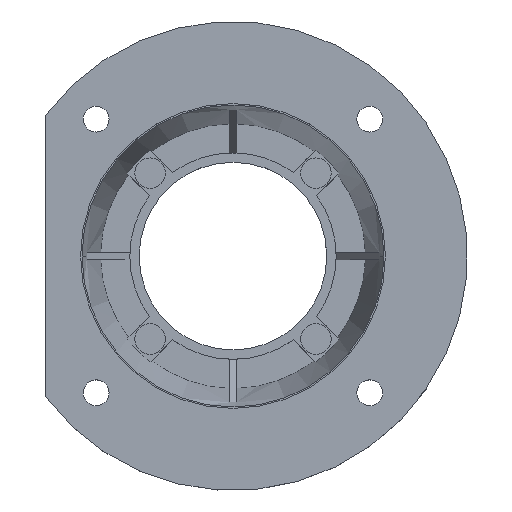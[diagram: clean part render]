
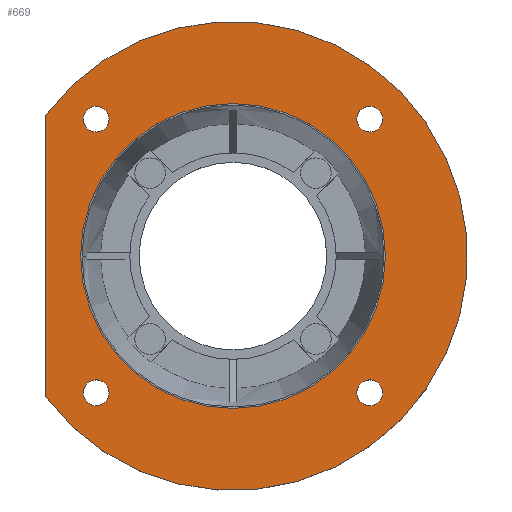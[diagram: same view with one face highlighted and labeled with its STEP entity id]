
A CAD part, top view. The second image highlights one B-rep face of the part: STEP entity #669.
In plain terms, the highlighted planar face has unit normal (0, 0, 1) as drawn and (1, 0, 0) by its records, which use the part's own axes.
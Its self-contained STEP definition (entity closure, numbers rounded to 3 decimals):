
#669=ADVANCED_FACE('',(#766,#752,#753,#754,#755,#756),#2055,.T.);
#752=FACE_BOUND('',#852,.T.);
#753=FACE_BOUND('',#853,.T.);
#754=FACE_BOUND('',#854,.T.);
#755=FACE_BOUND('',#855,.T.);
#756=FACE_BOUND('',#856,.T.);
#766=FACE_OUTER_BOUND('',#851,.T.);
#851=EDGE_LOOP('',(#972,#973));
#852=EDGE_LOOP('',(#974,#975));
#853=EDGE_LOOP('',(#976,#977));
#854=EDGE_LOOP('',(#978,#979));
#855=EDGE_LOOP('',(#980,#981));
#856=EDGE_LOOP('',(#982,#983));
#972=ORIENTED_EDGE('',*,*,#1382,.F.);
#973=ORIENTED_EDGE('',*,*,#1379,.F.);
#974=ORIENTED_EDGE('',*,*,#1568,.F.);
#975=ORIENTED_EDGE('',*,*,#1531,.F.);
#976=ORIENTED_EDGE('',*,*,#1566,.F.);
#977=ORIENTED_EDGE('',*,*,#1527,.F.);
#978=ORIENTED_EDGE('',*,*,#1564,.F.);
#979=ORIENTED_EDGE('',*,*,#1523,.F.);
#980=ORIENTED_EDGE('',*,*,#1562,.F.);
#981=ORIENTED_EDGE('',*,*,#1519,.F.);
#982=ORIENTED_EDGE('',*,*,#1556,.F.);
#983=ORIENTED_EDGE('',*,*,#1447,.F.);
#1379=EDGE_CURVE('',#1901,#1902,#1587,.T.);
#1382=EDGE_CURVE('',#1902,#1901,#1769,.T.);
#1447=EDGE_CURVE('',#1903,#2004,#1616,.T.);
#1519=EDGE_CURVE('',#1907,#2007,#1632,.T.);
#1523=EDGE_CURVE('',#1906,#2008,#1635,.T.);
#1527=EDGE_CURVE('',#1905,#2009,#1638,.T.);
#1531=EDGE_CURVE('',#1904,#2010,#1641,.T.);
#1556=EDGE_CURVE('',#2004,#1903,#1656,.T.);
#1562=EDGE_CURVE('',#2007,#1907,#1660,.T.);
#1564=EDGE_CURVE('',#2008,#1906,#1661,.T.);
#1566=EDGE_CURVE('',#2009,#1905,#1662,.T.);
#1568=EDGE_CURVE('',#2010,#1904,#1663,.T.);
#1587=TRIMMED_CURVE($,#1672,(#3026),(#3027),.T.,.CARTESIAN.);
#1616=TRIMMED_CURVE($,#1701,(#3223),(#3224),.T.,.CARTESIAN.);
#1632=TRIMMED_CURVE($,#1717,(#3426),(#3427),.T.,.CARTESIAN.);
#1635=TRIMMED_CURVE($,#1720,(#3437),(#3438),.T.,.CARTESIAN.);
#1638=TRIMMED_CURVE($,#1723,(#3448),(#3449),.T.,.CARTESIAN.);
#1641=TRIMMED_CURVE($,#1726,(#3459),(#3460),.T.,.CARTESIAN.);
#1656=TRIMMED_CURVE($,#1741,(#3525),(#3526),.T.,.CARTESIAN.);
#1660=TRIMMED_CURVE($,#1745,(#3541),(#3542),.T.,.CARTESIAN.);
#1661=TRIMMED_CURVE($,#1746,(#3546),(#3547),.T.,.CARTESIAN.);
#1662=TRIMMED_CURVE($,#1747,(#3551),(#3552),.T.,.CARTESIAN.);
#1663=TRIMMED_CURVE($,#1748,(#3556),(#3557),.T.,.CARTESIAN.);
#1672=CIRCLE('',#2350,100.);
#1701=CIRCLE('',#2379,65.);
#1717=CIRCLE('',#2395,5.5);
#1720=CIRCLE('',#2398,5.5);
#1723=CIRCLE('',#2401,5.5);
#1726=CIRCLE('',#2404,5.5);
#1741=CIRCLE('',#2419,65.);
#1745=CIRCLE('',#2423,5.5);
#1746=CIRCLE('',#2424,5.5);
#1747=CIRCLE('',#2425,5.5);
#1748=CIRCLE('',#2426,5.5);
#1769=B_SPLINE_CURVE_WITH_KNOTS('',1,(#3033,#3034),.UNSPECIFIED.,.F.,.F.,
(2,2),(-120.,0.),.UNSPECIFIED.);
#1901=VERTEX_POINT('',#2885);
#1902=VERTEX_POINT('',#2886);
#1903=VERTEX_POINT('',#2887);
#1904=VERTEX_POINT('',#2888);
#1905=VERTEX_POINT('',#2889);
#1906=VERTEX_POINT('',#2890);
#1907=VERTEX_POINT('',#2891);
#2004=VERTEX_POINT('',#2988);
#2007=VERTEX_POINT('',#2991);
#2008=VERTEX_POINT('',#2992);
#2009=VERTEX_POINT('',#2993);
#2010=VERTEX_POINT('',#2994);
#2055=PLANE('',#2279);
#2279=AXIS2_PLACEMENT_3D('',#2692,#2443,$);
#2350=AXIS2_PLACEMENT_3D($,#3025,#2514,#2515);
#2379=AXIS2_PLACEMENT_3D($,#3222,#2572,#2573);
#2395=AXIS2_PLACEMENT_3D($,#3425,#2604,#2605);
#2398=AXIS2_PLACEMENT_3D($,#3436,#2610,#2611);
#2401=AXIS2_PLACEMENT_3D($,#3447,#2616,#2617);
#2404=AXIS2_PLACEMENT_3D($,#3458,#2622,#2623);
#2419=AXIS2_PLACEMENT_3D($,#3524,#2652,#2653);
#2423=AXIS2_PLACEMENT_3D($,#3540,#2660,#2661);
#2424=AXIS2_PLACEMENT_3D($,#3545,#2662,#2663);
#2425=AXIS2_PLACEMENT_3D($,#3550,#2664,#2665);
#2426=AXIS2_PLACEMENT_3D($,#3555,#2666,#2667);
#2443=DIRECTION('',(1.,0.,0.));
#2514=DIRECTION('',(-1.,0.,0.));
#2515=DIRECTION('',(0.,0.6,0.8));
#2572=DIRECTION('',(1.,0.,0.));
#2573=DIRECTION('',(0.,0.,-1.));
#2604=DIRECTION('',(1.,0.,0.));
#2605=DIRECTION('',(0.,0.,1.));
#2610=DIRECTION('',(1.,0.,0.));
#2611=DIRECTION('',(0.,0.,1.));
#2616=DIRECTION('',(1.,0.,0.));
#2617=DIRECTION('',(0.,0.,1.));
#2622=DIRECTION('',(1.,0.,0.));
#2623=DIRECTION('',(0.,0.,1.));
#2652=DIRECTION('',(1.,0.,0.));
#2653=DIRECTION('',(0.,0.,1.));
#2660=DIRECTION('',(1.,0.,0.));
#2661=DIRECTION('',(0.,0.,-1.));
#2662=DIRECTION('',(1.,0.,0.));
#2663=DIRECTION('',(0.,0.,-1.));
#2664=DIRECTION('',(1.,0.,0.));
#2665=DIRECTION('',(0.,0.,-1.));
#2666=DIRECTION('',(1.,0.,0.));
#2667=DIRECTION('',(0.,0.,-1.));
#2692=CARTESIAN_POINT('',(45.,-141.253,-118.06));
#2885=CARTESIAN_POINT('',(45.,60.,80.));
#2886=CARTESIAN_POINT('',(45.,-60.,80.));
#2887=CARTESIAN_POINT('',(45.,0.,-65.));
#2888=CARTESIAN_POINT('',(45.,58.336,63.836));
#2889=CARTESIAN_POINT('',(45.,-58.336,63.836));
#2890=CARTESIAN_POINT('',(45.,-58.336,-52.836));
#2891=CARTESIAN_POINT('',(45.,58.336,-52.836));
#2988=CARTESIAN_POINT('',(45.,0.,65.));
#2991=CARTESIAN_POINT('',(45.,58.336,-63.836));
#2992=CARTESIAN_POINT('',(45.,-58.336,-63.836));
#2993=CARTESIAN_POINT('',(45.,-58.336,52.836));
#2994=CARTESIAN_POINT('',(45.,58.336,52.836));
#3025=CARTESIAN_POINT('',(45.,0.,0.));
#3026=CARTESIAN_POINT('',(45.,60.,80.));
#3027=CARTESIAN_POINT('',(45.,-60.,80.));
#3033=CARTESIAN_POINT('',(45.,-60.,80.));
#3034=CARTESIAN_POINT('',(45.,60.,80.));
#3222=CARTESIAN_POINT('',(45.,0.,0.));
#3223=CARTESIAN_POINT('',(45.,0.,-65.));
#3224=CARTESIAN_POINT('',(45.,0.,65.));
#3425=CARTESIAN_POINT('',(45.,58.336,-58.336));
#3426=CARTESIAN_POINT('',(45.,58.336,-52.836));
#3427=CARTESIAN_POINT('',(45.,58.336,-63.836));
#3436=CARTESIAN_POINT('',(45.,-58.336,-58.336));
#3437=CARTESIAN_POINT('',(45.,-58.336,-52.836));
#3438=CARTESIAN_POINT('',(45.,-58.336,-63.836));
#3447=CARTESIAN_POINT('',(45.,-58.336,58.336));
#3448=CARTESIAN_POINT('',(45.,-58.336,63.836));
#3449=CARTESIAN_POINT('',(45.,-58.336,52.836));
#3458=CARTESIAN_POINT('',(45.,58.336,58.336));
#3459=CARTESIAN_POINT('',(45.,58.336,63.836));
#3460=CARTESIAN_POINT('',(45.,58.336,52.836));
#3524=CARTESIAN_POINT('',(45.,0.,0.));
#3525=CARTESIAN_POINT('',(45.,0.,65.));
#3526=CARTESIAN_POINT('',(45.,0.,-65.));
#3540=CARTESIAN_POINT('',(45.,58.336,-58.336));
#3541=CARTESIAN_POINT('',(45.,58.336,-63.836));
#3542=CARTESIAN_POINT('',(45.,58.336,-52.836));
#3545=CARTESIAN_POINT('',(45.,-58.336,-58.336));
#3546=CARTESIAN_POINT('',(45.,-58.336,-63.836));
#3547=CARTESIAN_POINT('',(45.,-58.336,-52.836));
#3550=CARTESIAN_POINT('',(45.,-58.336,58.336));
#3551=CARTESIAN_POINT('',(45.,-58.336,52.836));
#3552=CARTESIAN_POINT('',(45.,-58.336,63.836));
#3555=CARTESIAN_POINT('',(45.,58.336,58.336));
#3556=CARTESIAN_POINT('',(45.,58.336,52.836));
#3557=CARTESIAN_POINT('',(45.,58.336,63.836));
